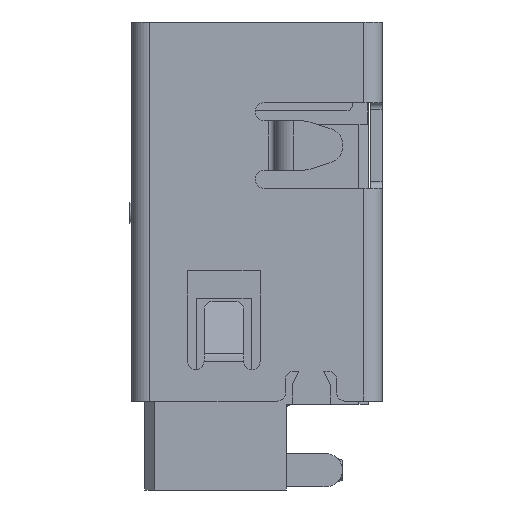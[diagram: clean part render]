
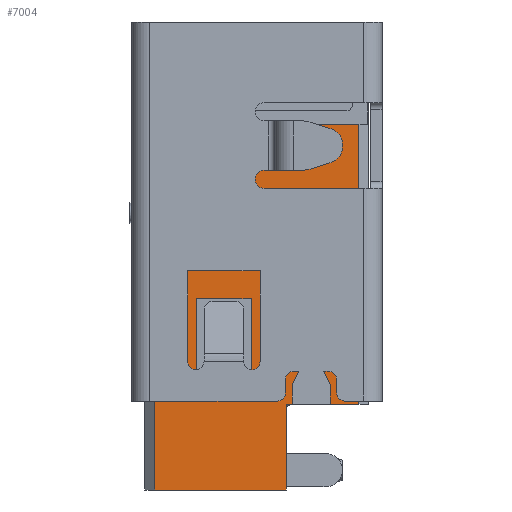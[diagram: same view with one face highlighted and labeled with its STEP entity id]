
A CAD part, left-side view. The second image highlights one B-rep face of the part: STEP entity #7004.
In plain terms, the highlighted planar face has unit normal (-1, 0, 0).
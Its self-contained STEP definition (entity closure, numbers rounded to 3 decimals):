
#123 = LINE ( 'NONE', #12935, #14843 ) ;
#509 = EDGE_CURVE ( 'NONE', #19298, #10829, #8342, .T. ) ;
#554 = LINE ( 'NONE', #20262, #20482 ) ;
#595 = CARTESIAN_POINT ( 'NONE',  ( 0.4, 3.575, -8.3 ) ) ;
#656 = LINE ( 'NONE', #10928, #20331 ) ;
#1100 = CARTESIAN_POINT ( 'NONE',  ( 0.4, 5.225, -10.55 ) ) ;
#1201 = VERTEX_POINT ( 'NONE', #34053 ) ;
#1370 = CARTESIAN_POINT ( 'NONE',  ( 0.4, 2.325, -10.9 ) ) ;
#1421 = ORIENTED_EDGE ( 'NONE', *, *, #9761, .F. ) ;
#1523 = DIRECTION ( 'NONE',  ( 0., 1., 0. ) ) ;
#2279 = VERTEX_POINT ( 'NONE', #20831 ) ;
#2541 = CARTESIAN_POINT ( 'NONE',  ( 0.4, 5.225, -8.3 ) ) ;
#2797 = EDGE_CURVE ( 'NONE', #18213, #1201, #19074, .T. ) ;
#2990 = EDGE_CURVE ( 'NONE', #33246, #24061, #38801, .T. ) ;
#3077 = EDGE_CURVE ( 'NONE', #12156, #39223, #23258, .T. ) ;
#4565 = ORIENTED_EDGE ( 'NONE', *, *, #21328, .F. ) ;
#5174 = CARTESIAN_POINT ( 'NONE',  ( 0.4, 3.4, -8.55 ) ) ;
#5235 = VECTOR ( 'NONE', #35844, 1000. ) ;
#5327 = LINE ( 'NONE', #23783, #35929 ) ;
#5647 = ORIENTED_EDGE ( 'NONE', *, *, #13116, .T. ) ;
#5783 = CARTESIAN_POINT ( 'NONE',  ( 0.4, 2.5, -14.1 ) ) ;
#6469 = LINE ( 'NONE', #19048, #40511 ) ;
#6480 = DIRECTION ( 'NONE',  ( 0., 0., 1. ) ) ;
#6541 = EDGE_CURVE ( 'NONE', #2279, #1201, #656, .T. ) ;
#7004 = ADVANCED_FACE ( 'NONE', ( #8315, #34128 ), #21527, .F. ) ;
#7576 = DIRECTION ( 'NONE',  ( 0., 0., -1. ) ) ;
#7725 = CARTESIAN_POINT ( 'NONE',  ( 0.4, 1.175, -10.9 ) ) ;
#8128 = CARTESIAN_POINT ( 'NONE',  ( 0.4, 2.125, -10.5 ) ) ;
#8147 = EDGE_CURVE ( 'NONE', #16650, #10829, #29130, .T. ) ;
#8315 = FACE_BOUND ( 'NONE', #36800, .T. ) ;
#8342 = LINE ( 'NONE', #8128, #16652 ) ;
#8592 = VERTEX_POINT ( 'NONE', #25936 ) ;
#9761 = EDGE_CURVE ( 'NONE', #8592, #39223, #36003, .T. ) ;
#9969 = VECTOR ( 'NONE', #1523, 1000. ) ;
#10262 = VECTOR ( 'NONE', #25783, 1000. ) ;
#10711 = VECTOR ( 'NONE', #15679, 1000. ) ;
#10742 = ORIENTED_EDGE ( 'NONE', *, *, #8147, .T. ) ;
#10829 = VERTEX_POINT ( 'NONE', #1370 ) ;
#10928 = CARTESIAN_POINT ( 'NONE',  ( 0.4, 6.5, -3. ) ) ;
#11221 = ORIENTED_EDGE ( 'NONE', *, *, #19223, .T. ) ;
#11999 = ORIENTED_EDGE ( 'NONE', *, *, #6541, .T. ) ;
#12156 = VERTEX_POINT ( 'NONE', #16320 ) ;
#12935 = CARTESIAN_POINT ( 'NONE',  ( 0.4, 2.325, -11.5 ) ) ;
#13116 = EDGE_CURVE ( 'NONE', #24061, #34140, #30292, .T. ) ;
#14378 = CARTESIAN_POINT ( 'NONE',  ( 0.4, 0.3, -3. ) ) ;
#14744 = CARTESIAN_POINT ( 'NONE',  ( 0.4, 3.575, -10.55 ) ) ;
#14843 = VECTOR ( 'NONE', #22586, 1000. ) ;
#14937 = CARTESIAN_POINT ( 'NONE',  ( 0.4, 5.225, -8.3 ) ) ;
#15588 = ORIENTED_EDGE ( 'NONE', *, *, #32363, .F. ) ;
#15679 = DIRECTION ( 'NONE',  ( 0., -1., 0. ) ) ;
#15732 = DIRECTION ( 'NONE',  ( 0., -1., 0. ) ) ;
#16320 = CARTESIAN_POINT ( 'NONE',  ( 0.4, 1.175, -10.9 ) ) ;
#16490 = CARTESIAN_POINT ( 'NONE',  ( 0.4, 0.3, -11.5 ) ) ;
#16650 = VERTEX_POINT ( 'NONE', #22176 ) ;
#16652 = VECTOR ( 'NONE', #27843, 1000. ) ;
#17925 = ORIENTED_EDGE ( 'NONE', *, *, #509, .F. ) ;
#18213 = VERTEX_POINT ( 'NONE', #5783 ) ;
#18801 = EDGE_CURVE ( 'NONE', #30716, #33246, #21431, .T. ) ;
#19048 = CARTESIAN_POINT ( 'NONE',  ( 0.4, 0.3, -3. ) ) ;
#19074 = LINE ( 'NONE', #41121, #10262 ) ;
#19223 = EDGE_CURVE ( 'NONE', #19298, #20711, #34581, .T. ) ;
#19261 = DIRECTION ( 'NONE',  ( 0., 0., -1. ) ) ;
#19298 = VERTEX_POINT ( 'NONE', #33023 ) ;
#20262 = CARTESIAN_POINT ( 'NONE',  ( 0.4, 2.5, -11.5 ) ) ;
#20331 = VECTOR ( 'NONE', #7576, 1000. ) ;
#20482 = VECTOR ( 'NONE', #23615, 1000. ) ;
#20711 = VERTEX_POINT ( 'NONE', #21734 ) ;
#20831 = CARTESIAN_POINT ( 'NONE',  ( 0.4, 6.5, -3. ) ) ;
#21119 = CARTESIAN_POINT ( 'NONE',  ( 0.4, 0.3, -3. ) ) ;
#21328 = EDGE_CURVE ( 'NONE', #30749, #18213, #554, .T. ) ;
#21431 = LINE ( 'NONE', #2541, #38155 ) ;
#21527 = PLANE ( 'NONE',  #31790 ) ;
#21734 = CARTESIAN_POINT ( 'NONE',  ( 0.4, 1.375, -10.5 ) ) ;
#22176 = CARTESIAN_POINT ( 'NONE',  ( 0.4, 2.325, -11.5 ) ) ;
#22586 = DIRECTION ( 'NONE',  ( 0., 1., 0. ) ) ;
#23092 = EDGE_CURVE ( 'NONE', #40852, #2279, #36843, .T. ) ;
#23258 = LINE ( 'NONE', #7725, #35378 ) ;
#23615 = DIRECTION ( 'NONE',  ( 0., 0., -1. ) ) ;
#23783 = CARTESIAN_POINT ( 'NONE',  ( 0.4, 5.225, -10.55 ) ) ;
#23932 = DIRECTION ( 'NONE',  ( 0., 0.447, 0.894 ) ) ;
#23995 = CARTESIAN_POINT ( 'NONE',  ( 0.4, 1.175, -11.5 ) ) ;
#24061 = VERTEX_POINT ( 'NONE', #31496 ) ;
#24879 = DIRECTION ( 'NONE',  ( 0., 1., 0. ) ) ;
#24945 = ORIENTED_EDGE ( 'NONE', *, *, #18801, .T. ) ;
#25046 = ORIENTED_EDGE ( 'NONE', *, *, #3077, .T. ) ;
#25783 = DIRECTION ( 'NONE',  ( 0., 1., 0. ) ) ;
#25936 = CARTESIAN_POINT ( 'NONE',  ( 0.4, 0.3, -11.5 ) ) ;
#26862 = CARTESIAN_POINT ( 'NONE',  ( 0.4, 1.175, -10.9 ) ) ;
#27276 = VECTOR ( 'NONE', #33692, 1000. ) ;
#27318 = ORIENTED_EDGE ( 'NONE', *, *, #2990, .T. ) ;
#27843 = DIRECTION ( 'NONE',  ( 0., 0.447, -0.894 ) ) ;
#27997 = ORIENTED_EDGE ( 'NONE', *, *, #35805, .F. ) ;
#28722 = CARTESIAN_POINT ( 'NONE',  ( 0.4, 2.325, -11.5 ) ) ;
#29130 = LINE ( 'NONE', #28722, #38523 ) ;
#29821 = LINE ( 'NONE', #26862, #34920 ) ;
#30292 = LINE ( 'NONE', #14744, #9969 ) ;
#30716 = VERTEX_POINT ( 'NONE', #14937 ) ;
#30749 = VERTEX_POINT ( 'NONE', #40142 ) ;
#30979 = DIRECTION ( 'NONE',  ( 1., 0., 0. ) ) ;
#31496 = CARTESIAN_POINT ( 'NONE',  ( 0.4, 3.575, -10.55 ) ) ;
#31605 = ORIENTED_EDGE ( 'NONE', *, *, #2797, .F. ) ;
#31790 = AXIS2_PLACEMENT_3D ( 'NONE', #5174, #30979, #24879 ) ;
#32363 = EDGE_CURVE ( 'NONE', #40852, #8592, #6469, .T. ) ;
#32742 = ORIENTED_EDGE ( 'NONE', *, *, #23092, .T. ) ;
#33023 = CARTESIAN_POINT ( 'NONE',  ( 0.4, 2.125, -10.5 ) ) ;
#33246 = VERTEX_POINT ( 'NONE', #33762 ) ;
#33328 = ORIENTED_EDGE ( 'NONE', *, *, #40119, .T. ) ;
#33692 = DIRECTION ( 'NONE',  ( 0., 1., 0. ) ) ;
#33762 = CARTESIAN_POINT ( 'NONE',  ( 0.4, 3.575, -8.3 ) ) ;
#33865 = VECTOR ( 'NONE', #39365, 1000. ) ;
#34053 = CARTESIAN_POINT ( 'NONE',  ( 0.4, 6.5, -14.1 ) ) ;
#34128 = FACE_OUTER_BOUND ( 'NONE', #38871, .T. ) ;
#34140 = VERTEX_POINT ( 'NONE', #1100 ) ;
#34581 = LINE ( 'NONE', #41086, #10711 ) ;
#34920 = VECTOR ( 'NONE', #23932, 1000. ) ;
#35237 = EDGE_CURVE ( 'NONE', #12156, #20711, #29821, .T. ) ;
#35378 = VECTOR ( 'NONE', #36058, 1000. ) ;
#35805 = EDGE_CURVE ( 'NONE', #16650, #30749, #123, .T. ) ;
#35844 = DIRECTION ( 'NONE',  ( 0., 0., -1. ) ) ;
#35929 = VECTOR ( 'NONE', #37004, 1000. ) ;
#36003 = LINE ( 'NONE', #16490, #33865 ) ;
#36058 = DIRECTION ( 'NONE',  ( 0., 0., -1. ) ) ;
#36800 = EDGE_LOOP ( 'NONE', ( #33328, #24945, #27318, #5647 ) ) ;
#36843 = LINE ( 'NONE', #14378, #27276 ) ;
#37004 = DIRECTION ( 'NONE',  ( 0., 0., 1. ) ) ;
#38155 = VECTOR ( 'NONE', #15732, 1000. ) ;
#38523 = VECTOR ( 'NONE', #6480, 1000. ) ;
#38801 = LINE ( 'NONE', #595, #5235 ) ;
#38871 = EDGE_LOOP ( 'NONE', ( #1421, #15588, #32742, #11999, #31605, #4565, #27997, #10742, #17925, #11221, #39488, #25046 ) ) ;
#39223 = VERTEX_POINT ( 'NONE', #23995 ) ;
#39365 = DIRECTION ( 'NONE',  ( 0., 1., 0. ) ) ;
#39488 = ORIENTED_EDGE ( 'NONE', *, *, #35237, .F. ) ;
#40119 = EDGE_CURVE ( 'NONE', #34140, #30716, #5327, .T. ) ;
#40142 = CARTESIAN_POINT ( 'NONE',  ( 0.4, 2.5, -11.5 ) ) ;
#40511 = VECTOR ( 'NONE', #19261, 1000. ) ;
#40852 = VERTEX_POINT ( 'NONE', #21119 ) ;
#41086 = CARTESIAN_POINT ( 'NONE',  ( 0.4, 2.125, -10.5 ) ) ;
#41121 = CARTESIAN_POINT ( 'NONE',  ( 0.4, 2.5, -14.1 ) ) ;
